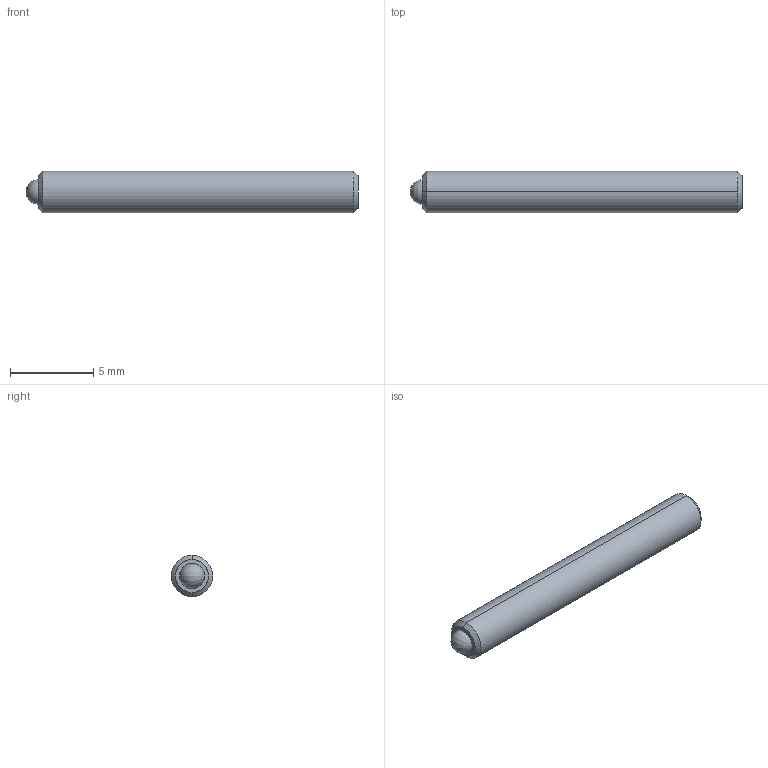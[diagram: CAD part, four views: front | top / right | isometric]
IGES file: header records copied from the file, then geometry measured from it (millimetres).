
Start section: SolidWorks IGES file using analytic representation for surfaces
Global section: file name: C:\Users\workpc\Desktop\KMA Solidworks\TS25-20 Series\TS25-20-20.IGS; native system: SolidWorks 2013; preprocessor: SolidWorks 2013; author: workpc; date: 150429.122447; units: millimetre
Bounding box: 20 x 2.5 x 2.5 mm (x, y, z)
Surface area: 179.7 mm2 (no closed solid volume)
Topology: 0 solids, 0 shells, 20 faces, 172 edges, 168 vertices
Faces by surface type: revolution 10, bspline 10
